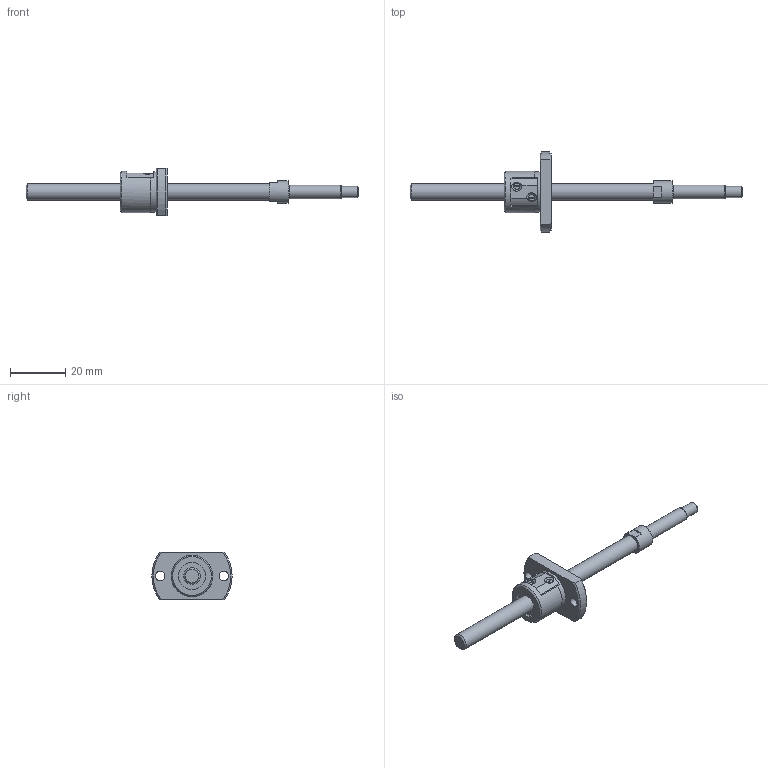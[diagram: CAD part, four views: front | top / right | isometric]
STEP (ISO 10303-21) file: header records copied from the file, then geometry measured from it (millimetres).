
FILE_DESCRIPTION(/* description */ ('STEP AP214'),/* implementation_level */ '2;1');
FILE_NAME(/* name */ 'SG0602-085R120C5A0X(34)',/* time_stamp */ '2026-07-20T20:14:11+02:00',/* author */ ('License CC BY-ND 4.0'),/* organization */ ('CADENAS'),/* preprocessor_version */ 'ST-DEVELOPER v20',/* originating_system */ 'PARTsolutions',/* authorisation */ ' ');
FILE_SCHEMA (('AUTOMOTIVE_DESIGN {1 0 10303 214 3 1 1}'));
Length unit declared in the file: millimetre
Products named in the file (3): SG0602-085R120C5A0X(34); SG0602-85R120C5A_shaft; SG0602 C5_nut
Assembly tree (2 placements, depth 2):
  SG0602-085R120C5A0X(34)
    SG0602-85R120C5A_shaft
    SG0602 C5_nut
Bounding box: 120 x 29 x 17 mm (x, y, z)
Volume: 6683.6 mm3; surface area: 4510.6 mm2
Topology: 2 solids, 2 shells, 71 faces, 174 edges, 115 vertices
Faces by surface type: plane 34, cylinder 23, cone 13, torus 1
Full cylindrical faces by diameter (mm): 3.4 x2, 4 x1, 5 x1, 6 x2, 8 x1, 10 x2, 14.6 x1, 15 x1
Entity records: 2027 total; most frequent: CARTESIAN_POINT 382, DIRECTION 340, ORIENTED_EDGE 286, EDGE_CURVE 143, AXIS2_PLACEMENT_3D 141, EDGE_LOOP 106, FACE_BOUND 106, VERTEX_POINT 105
